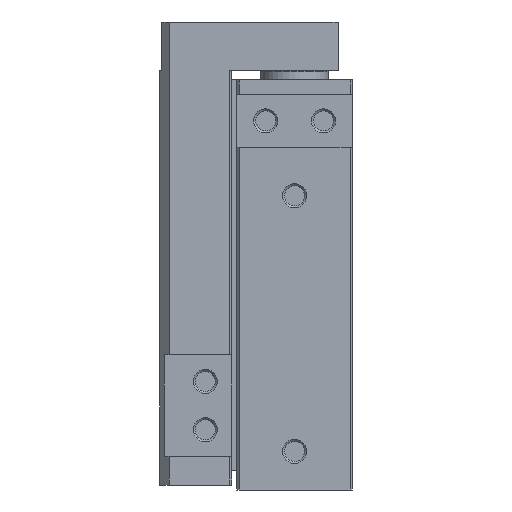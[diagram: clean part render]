
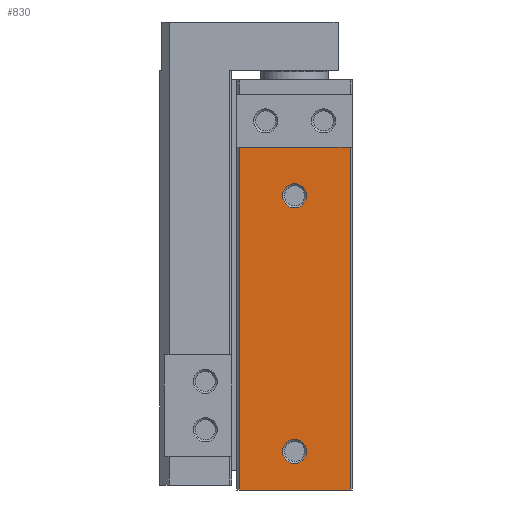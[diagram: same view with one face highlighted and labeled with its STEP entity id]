
A CAD part, left-side view. The second image highlights one B-rep face of the part: STEP entity #830.
In plain terms, the highlighted planar face has unit normal (-1, 0, 0).
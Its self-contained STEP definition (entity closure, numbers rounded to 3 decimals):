
#830 = ADVANCED_FACE( '', ( #1937, #1938, #1939 ), #1940, .T. );
#1937 = FACE_BOUND( '', #3338, .T. );
#1938 = FACE_BOUND( '', #3339, .T. );
#1939 = FACE_OUTER_BOUND( '', #3340, .T. );
#1940 = PLANE( '', #3341 );
#3338 = EDGE_LOOP( '', ( #5686 ) );
#3339 = EDGE_LOOP( '', ( #5687 ) );
#3340 = EDGE_LOOP( '', ( #5688, #5689, #5690, #5691 ) );
#3341 = AXIS2_PLACEMENT_3D( '', #5692, #5693, #5694 );
#5686 = ORIENTED_EDGE( '', *, *, #7589, .T. );
#5687 = ORIENTED_EDGE( '', *, *, #8371, .T. );
#5688 = ORIENTED_EDGE( '', *, *, #8372, .T. );
#5689 = ORIENTED_EDGE( '', *, *, #8373, .F. );
#5690 = ORIENTED_EDGE( '', *, *, #8374, .F. );
#5691 = ORIENTED_EDGE( '', *, *, #8163, .T. );
#5692 = CARTESIAN_POINT( '', ( -31., 23.5, -85. ) );
#5693 = DIRECTION( '', ( -1., 0., 0. ) );
#5694 = DIRECTION( '', ( 0., 0., 1. ) );
#7589 = EDGE_CURVE( '', #8938, #8938, #8939, .T. );
#8163 = EDGE_CURVE( '', #9870, #9905, #9907, .T. );
#8371 = EDGE_CURVE( '', #10209, #10209, #10210, .T. );
#8372 = EDGE_CURVE( '', #9905, #10211, #10212, .T. );
#8373 = EDGE_CURVE( '', #10213, #10211, #10214, .T. );
#8374 = EDGE_CURVE( '', #9870, #10213, #10215, .T. );
#8938 = VERTEX_POINT( '', #10926 );
#8939 = CIRCLE( '', #10927, 2.5 );
#9870 = VERTEX_POINT( '', #12206 );
#9905 = VERTEX_POINT( '', #12261 );
#9907 = LINE( '', #12264, #12265 );
#10209 = VERTEX_POINT( '', #12688 );
#10210 = CIRCLE( '', #12689, 2.5 );
#10211 = VERTEX_POINT( '', #12690 );
#10212 = LINE( '', #12691, #12692 );
#10213 = VERTEX_POINT( '', #12693 );
#10214 = LINE( '', #12694, #12695 );
#10215 = LINE( '', #12696, #12697 );
#10926 = CARTESIAN_POINT( '', ( -31., 12., -79.5 ) );
#10927 = AXIS2_PLACEMENT_3D( '', #13525, #13526, #13527 );
#12206 = CARTESIAN_POINT( '', ( -31., 23.5, -85. ) );
#12261 = CARTESIAN_POINT( '', ( -31., 0.5, -85. ) );
#12264 = CARTESIAN_POINT( '', ( -31., 23.5, -85. ) );
#12265 = VECTOR( '', #14182, 1000. );
#12688 = CARTESIAN_POINT( '', ( -31., 12., -26.5 ) );
#12689 = AXIS2_PLACEMENT_3D( '', #14379, #14380, #14381 );
#12690 = CARTESIAN_POINT( '', ( -31., 0.5, -14. ) );
#12691 = CARTESIAN_POINT( '', ( -31., 0.5, -85. ) );
#12692 = VECTOR( '', #14382, 1000. );
#12693 = CARTESIAN_POINT( '', ( -31., 23.5, -14. ) );
#12694 = CARTESIAN_POINT( '', ( -31., 24., -14. ) );
#12695 = VECTOR( '', #14383, 1000. );
#12696 = CARTESIAN_POINT( '', ( -31., 23.5, -85. ) );
#12697 = VECTOR( '', #14384, 1000. );
#13525 = CARTESIAN_POINT( '', ( -31., 12., -77. ) );
#13526 = DIRECTION( '', ( 1., 0., 0. ) );
#13527 = DIRECTION( '', ( 0., 0., -1. ) );
#14182 = DIRECTION( '', ( 0., -1., 0. ) );
#14379 = CARTESIAN_POINT( '', ( -31., 12., -24. ) );
#14380 = DIRECTION( '', ( 1., 0., 0. ) );
#14381 = DIRECTION( '', ( 0., 0., -1. ) );
#14382 = DIRECTION( '', ( 0., 0., 1. ) );
#14383 = DIRECTION( '', ( 0., -1., 0. ) );
#14384 = DIRECTION( '', ( 0., 0., 1. ) );
